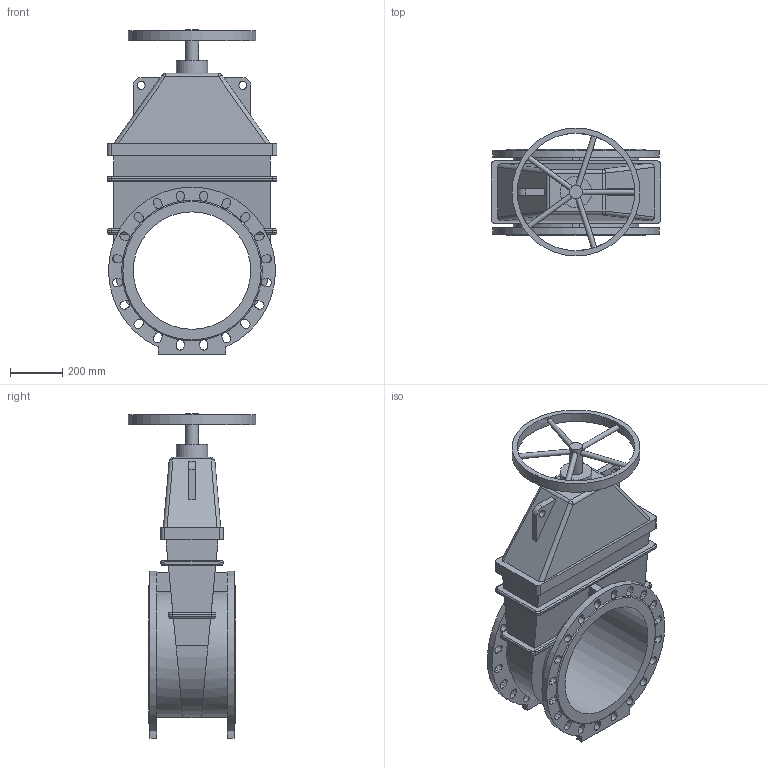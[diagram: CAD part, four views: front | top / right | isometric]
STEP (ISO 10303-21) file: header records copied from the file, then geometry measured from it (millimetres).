
FILE_DESCRIPTION(('STEP AP203'), '1');
FILE_NAME('Çàäâèæêà 47GV.Z DN450 PN10_PN16 ñ ìàõîâèêîì', '', ('UNSPECIFIED'), ('UNSPECIFIED'), 'ASCON STEP Converter 1.6', 'ASCON Math Kernel', '');
FILE_SCHEMA(('CONFIG_CONTROL_DESIGN'));
Length unit declared in the file: millimetre
Bounding box: 650 x 490 x 1242.5 mm (x, y, z)
Volume: 78951455.3 mm3; surface area: 3016771.5 mm2
Topology: 1 solids, 1 shells, 314 faces, 975 edges, 632 vertices
Faces by surface type: plane 152, cylinder 140, bspline 12, torus 8, cone 2
Full cylindrical faces by diameter (mm): 20 x5, 30 x2, 50 x1, 120 x1, 450 x2, 490 x1
Entity records: 17517 total; most frequent: CARTESIAN_POINT 6137, ORIENTED_EDGE 1912, DIRECTION 1810, EDGE_CURVE 956, AXIS2_PLACEMENT_3D 643, VERTEX_POINT 632, LINE 524, VECTOR 524
